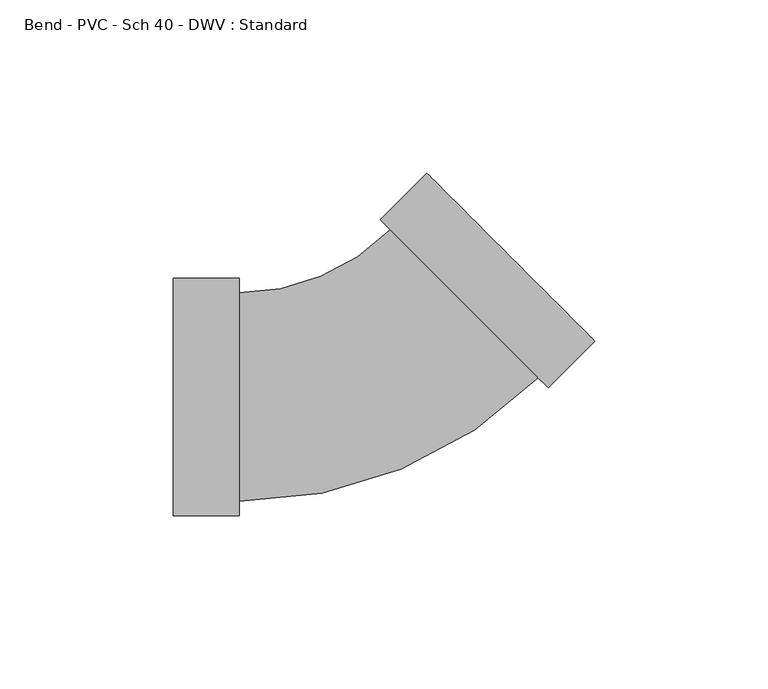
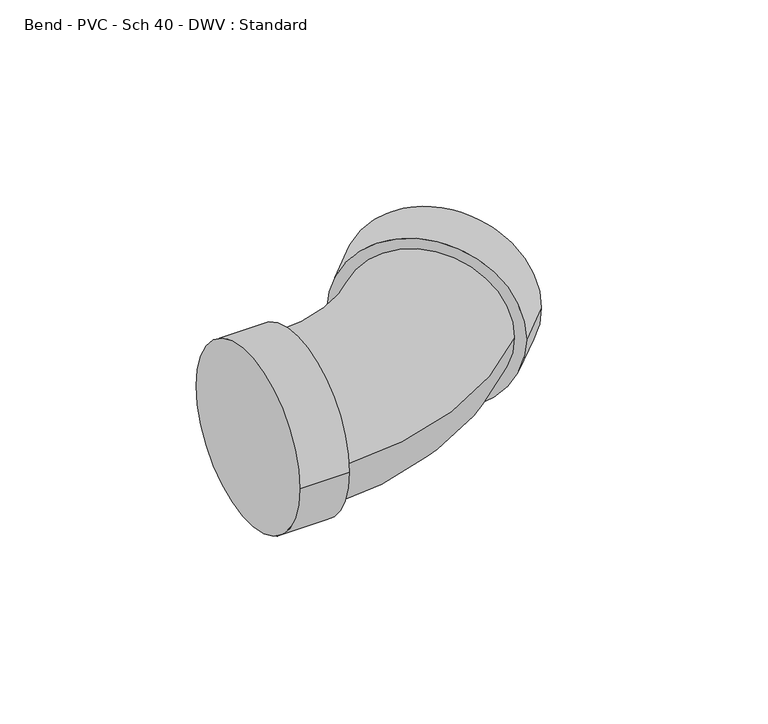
"""IFC4 building model written with IfcOpenShell, lengths in millimetres: pipe fitting geometry, Bend - PVC - Sch 40 - DWV : Standard."""

from ifc_helpers import new_model, si_unit, point, frame, origin, place, context, project, spatial, circle_curve, ellipse_curve, trimmed, source, transform, mapped, element, save
from ifc_brep_helpers import plane_surface, cylinder_surface, revolved_surface, advanced_brep


def bend_pvc_sch_40_dwv_standard_cc806abd(model_context):
    return source(origin(), model_context, "Body", "AdvancedBrep", [
        advanced_brep(
        [(-57.15, -34.3154, 0.0), (-57.15, 34.3154, 0.0), (-38.1, -34.3154, 0.0), (-38.1, 34.3154, 0.0), (-38.1, -30.1625, 0.0), (-38.1, 30.1625, 0.0), (5.6148326, 48.268624, 0.0), (48.2691292, 5.6104875, 0.0), (51.2055408, 2.6738116, 0.0), (2.6784211, 51.2052999, 0.0), (64.6765313, 16.1435895, 0.0), (16.1494115, 64.6750778, 0.0)],
        [
            (0, 1, circle_curve(frame((-57.15, 0.0, 0.0), z_axis=(-1.0, 0.0, 0.0), x_axis=(0.0, 1.0, 0.0)), 34.3154)),
            (1, 0, circle_curve(frame((-57.15, 0.0, 0.0), z_axis=(-1.0, 0.0, 0.0), x_axis=(0.0, 1.0, 0.0)), 34.3154)),
            (2, 3, circle_curve(frame((-38.1, 0.0, 0.0), z_axis=(1.0, 0.0, 0.0), x_axis=(0.0, 1.0, 0.0)), 34.3154)),
            (3, 2, circle_curve(frame((-38.1, 0.0, 0.0), z_axis=(1.0, 0.0, 0.0), x_axis=(0.0, 1.0, 0.0)), 34.3154)),
            (4, 5, circle_curve(frame((-38.1, 0.0, 0.0), z_axis=(-1.0, 0.0, 0.0), x_axis=(0.0, 1.0, 0.0)), 30.1625)),
            (5, 4, circle_curve(frame((-38.1, 0.0, 0.0), z_axis=(-1.0, 0.0, 0.0), x_axis=(0.0, 1.0, 0.0)), 30.1625)),
            (0, 2),
            (3, 1),
            (6, 5, circle_curve(frame((-38.1, 91.987392, 0.0), z_axis=(0.0, 0.0, -1.0), x_axis=(0.0, -1.0, 0.0)), 61.824892)),
            (4, 7, circle_curve(frame((-38.1, 91.987392, 0.0), z_axis=(0.0, 0.0, 1.0), x_axis=(0.0, -1.0, 0.0)), 122.149892)),
            (7, 6, circle_curve(frame((26.9419809, 26.9395557, 0.0), z_axis=(-0.70713860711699, -0.7070749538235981, 0.0), x_axis=(-0.7070749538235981, 0.70713860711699, 0.0)), 30.1625)),
            (6, 7, circle_curve(frame((26.9419809, 26.9395557, 0.0), z_axis=(-0.70713860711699, -0.7070749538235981, 0.0), x_axis=(-0.7070749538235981, 0.70713860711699, 0.0)), 30.1625)),
            (8, 9, circle_curve(frame((26.9419809, 26.9395557, 0.0), z_axis=(-0.7071386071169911, -0.7070749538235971, 0.0), x_axis=(-0.7070749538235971, 0.7071386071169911, 0.0)), 34.3154)),
            (9, 8, circle_curve(frame((26.9419809, 26.9395557, 0.0), z_axis=(-0.7071386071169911, -0.7070749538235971, 0.0), x_axis=(-0.7070749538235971, 0.7071386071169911, 0.0)), 34.3154)),
            (10, 11, circle_curve(frame((40.4129714, 40.4093336, 0.0), z_axis=(0.7071386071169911, 0.7070749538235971, 0.0), x_axis=(-0.7070749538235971, 0.7071386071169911, 0.0)), 34.3154)),
            (11, 10, circle_curve(frame((40.4129714, 40.4093336, 0.0), z_axis=(0.7071386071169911, 0.7070749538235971, 0.0), x_axis=(-0.7070749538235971, 0.7071386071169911, 0.0)), 34.3154)),
            (8, 10),
            (11, 9),
        ],
        [
            plane_surface(frame((-57.15, 0.0, 0.0), z_axis=(-1.0, 0.0, 0.0), x_axis=(0.0, 0.0, 1.0))),
            plane_surface(frame((-38.1, 0.0, 0.0), z_axis=(1.0, 0.0, 0.0), x_axis=(0.0, 0.0, 1.0))),
            cylinder_surface(frame((-57.15, 0.0, 0.0), z_axis=(-1.0, 0.0, 0.0), x_axis=(0.0, 1.0, 0.0)), 34.3154),
            revolved_surface(trimmed(ellipse_curve(frame((-38.1, 0.0, 0.0), z_axis=(-1.0, 0.0, 0.0), x_axis=(0.0, 1.0, 0.0)), 30.1625, 30.1625), [point((-38.1, -30.1625, 0.0))], [point((-38.1, 30.1625, 0.0))], True, "CARTESIAN"), (-38.1, 91.987392, 0.0), (0.0, 0.0, 1.0)),
            revolved_surface(trimmed(ellipse_curve(frame((-38.1, 0.0, 0.0), z_axis=(-1.0, 0.0, 0.0), x_axis=(0.0, 1.0, 0.0)), 30.1625, 30.1625), [point((-38.1, 30.1625, 0.0))], [point((-38.1, -30.1625, 0.0))], True, "CARTESIAN"), (-38.1, 91.987392, 0.0), (0.0, 0.0, 1.0)),
            plane_surface(frame((26.9419809, 26.9395557, 0.0), z_axis=(-0.7071386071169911, -0.7070749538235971, 0.0), x_axis=(0.0, 0.0, 1.0))),
            plane_surface(frame((40.4129714, 40.4093336, 0.0), z_axis=(0.7071386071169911, 0.7070749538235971, 0.0), x_axis=(0.0, 0.0, 1.0))),
            cylinder_surface(frame((26.9419809, 26.9395557, 0.0), z_axis=(-0.7071386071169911, -0.7070749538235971, 0.0), x_axis=(-0.7070749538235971, 0.7071386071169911, 0.0)), 34.3154),
        ],
        [
            (0, [[1, 2]]),
            (1, [[3, 4], [5, 6]]),
            (2, [[-1, 7, -4, 8]]),
            (2, [[-2, -8, -3, -7]]),
            (3, [[9, -5, 10, 11]]),
            (4, [[-9, 12, -10, -6]]),
            (5, [[13, 14], [-11, -12]]),
            (6, [[15, 16]]),
            (7, [[-13, 17, -16, 18]]),
            (7, [[-14, -18, -15, -17]]),
        ],
    ),
    ])


if __name__ == "__main__":
    model = new_model("IFC4")
    model_context = context("Model", 3, world=origin())
    ifc_project = project(units=[si_unit("LENGTHUNIT", "METRE", prefix="MILLI")], contexts=[model_context])
    site = spatial("IfcSite", under=ifc_project)
    building = spatial("IfcBuilding", under=site)
    placement = place(None, origin())
    bend_pvc_sch_40_dwv_standard_shape = bend_pvc_sch_40_dwv_standard_cc806abd(model_context)
    element("IfcPipeFitting", 1, ObjectType="Bend - PVC - Sch 40 - DWV : Standard", at=placement, inside=building, context=model_context, shape_type="MappedRepresentation", body=[
        mapped(bend_pvc_sch_40_dwv_standard_shape, transform((0.0, 0.0, 0.0), x_axis=(1.0, 0.0, 0.0), y_axis=(0.0, 1.0, 0.0), z_axis=(0.0, 0.0, 1.0))),
    ])
    save(model, "model.ifc")
